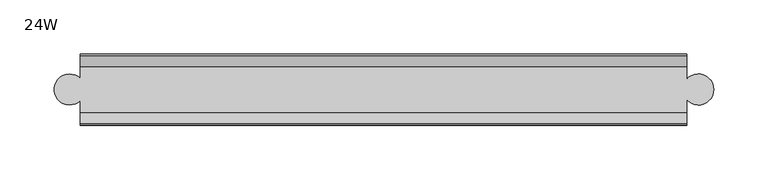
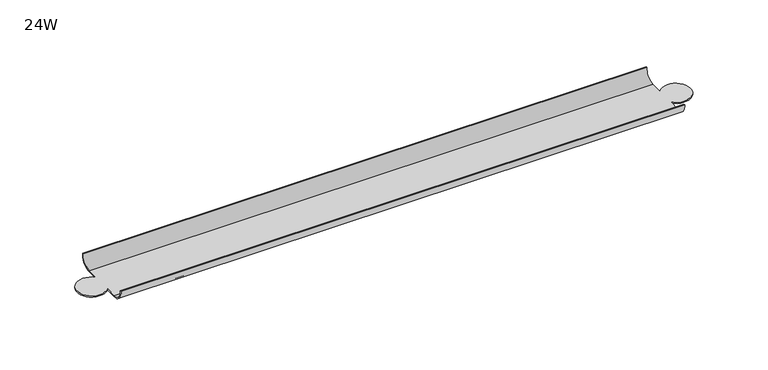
"""IFC4 building model written with IfcOpenShell, lengths in millimetres: furniture geometry, Steelcase - Groupwork - Marker Tray : 24W."""

from ifc_helpers import new_model, si_unit, frame, origin, place, context, project, spatial, polyline, circle_curve, source, transform, mapped, element, save
from ifc_brep_helpers import plane_surface, cylinder_surface, revolved_surface, advanced_brep


def furniture_24w_8317a860(model_context):
    return source(origin(), model_context, "Body", "AdvancedBrep", [
        advanced_brep(
        [(582.0429397, 212.2245693, 1687.0172), (23.241, 212.2245693, 1687.0172), (23.241, 202.0295313, 1698.4980698), (582.0429397, 202.0295313, 1698.4980698), (23.241, 200.7958824, 1698.4980698), (582.0429397, 200.7958824, 1698.4980698), (23.241, 212.2245693, 1685.798), (582.0429397, 212.2245693, 1685.798), (23.241, 223.9010128, 1685.798), (23.241, 244.1629734, 1685.798), (23.241, 255.3029693, 1685.798), (582.0429397, 255.3029693, 1685.798), (582.0429397, 243.3482016, 1685.798), (582.0429397, 224.7157845, 1685.798), (23.241, 266.7329688, 1698.4980698), (582.0429397, 266.7329688, 1698.4980698), (23.241, 265.5137686, 1698.4980698), (582.0429397, 265.5137686, 1698.4980698), (23.241, 255.3029693, 1687.0172), (582.0429397, 255.3029693, 1687.0172), (582.0429397, 224.7157845, 1687.0172), (582.0429397, 243.3482016, 1687.0172), (23.241, 244.1629734, 1687.0172), (23.241, 223.9010128, 1687.0172)],
        [
            (0, 1),
            (1, 2, circle_curve(frame((23.241, 212.2245693, 1697.2842432), z_axis=(-1.0, 0.0, 0.0), x_axis=(0.0, -1.0, 0.0)), 10.2670432)),
            (2, 3),
            (3, 0, circle_curve(frame((582.0429397, 212.2245693, 1697.2842432), z_axis=(1.0, 0.0, 0.0), x_axis=(0.0, -1.0, 0.0)), 10.2670432)),
            (2, 4),
            (4, 5),
            (5, 3),
            (4, 6, circle_curve(frame((23.241, 212.2245693, 1697.2903249), z_axis=(1.0, 0.0, 0.0), x_axis=(0.0, -1.0, 0.0)), 11.4923249)),
            (6, 7),
            (7, 5, circle_curve(frame((582.0429397, 212.2245693, 1697.2903249), z_axis=(-1.0, 0.0, 0.0), x_axis=(0.0, -1.0, 0.0)), 11.4923249)),
            (6, 8),
            (8, 9, circle_curve(frame((13.2330891, 234.0319931, 1685.798), z_axis=(0.0, 0.0, -1.0), x_axis=(1.0, 0.0, 0.0)), 14.2406124)),
            (9, 10),
            (10, 11),
            (11, 12),
            (12, 13, circle_curve(frame((592.8134226, 234.0319931, 1685.798), z_axis=(0.0, 0.0, -1.0), x_axis=(1.0, 0.0, 0.0)), 14.2406124)),
            (13, 7),
            (10, 14, circle_curve(frame((23.241, 255.3029693, 1697.2915061), z_axis=(1.0, 0.0, 0.0), x_axis=(0.0, -1.0, 0.0)), 11.4935061)),
            (14, 15),
            (15, 11, circle_curve(frame((582.0429397, 255.3029693, 1697.2915061), z_axis=(-1.0, 0.0, 0.0), x_axis=(0.0, -1.0, 0.0)), 11.4935061)),
            (14, 16),
            (16, 17),
            (17, 15),
            (16, 18, circle_curve(frame((23.241, 255.3029693, 1697.29825), z_axis=(-1.0, 0.0, 0.0), x_axis=(0.0, -1.0, 0.0)), 10.28105)),
            (18, 19),
            (19, 17, circle_curve(frame((582.0429397, 255.3029693, 1697.29825), z_axis=(1.0, 0.0, 0.0), x_axis=(0.0, -1.0, 0.0)), 10.28105)),
            (0, 20),
            (20, 21, circle_curve(frame((592.8134226, 234.0319931, 1687.0172), z_axis=(0.0, 0.0, 1.0), x_axis=(1.0, 0.0, 0.0)), 14.2406124)),
            (21, 19),
            (18, 22),
            (22, 23, circle_curve(frame((13.2330891, 234.0319931, 1687.0172), z_axis=(0.0, 0.0, 1.0), x_axis=(1.0, 0.0, 0.0)), 14.2406124)),
            (23, 1),
            (23, 8),
            (22, 9),
            (21, 12),
            (20, 13),
        ],
        [
            revolved_surface(polyline([(23.241, 201.95752610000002, 1697.2842432), (582.0429397, 201.95752610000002, 1697.2842432)]), (-2.159, 212.2245693, 1697.2842432), (-1.0, 0.0, 0.0)),
            plane_surface(frame((607.441, 202.0295313, 1698.4980698), z_axis=(0.0, 0.0, 1.0), x_axis=(-1.0, 0.0, 0.0))),
            cylinder_surface(frame((-2.159, 212.2245693, 1697.2903249), z_axis=(1.0, 0.0, 0.0), x_axis=(0.0, -1.0, 0.0)), 11.4923249),
            plane_surface(frame((607.441, 212.2245693, 1685.798), z_axis=(0.0, 0.0, -1.0), x_axis=(-1.0, 0.0, 0.0))),
            cylinder_surface(frame((-2.159, 255.3029693, 1697.2915061), z_axis=(1.0, 0.0, 0.0), x_axis=(0.0, -1.0, 0.0)), 11.4935061),
            plane_surface(frame((607.441, 266.7329688, 1698.4980698), z_axis=(0.0, 0.0, 1.0), x_axis=(-1.0, 0.0, 0.0))),
            revolved_surface(polyline([(23.241, 245.0219193, 1697.29825), (582.0429397, 245.0219193, 1697.29825)]), (-2.159, 255.3029693, 1697.29825), (-1.0, 0.0, 0.0)),
            plane_surface(frame((607.441, 255.3029693, 1687.0172), z_axis=(0.0, 0.0, 1.0), x_axis=(-1.0, 0.0, 0.0))),
            plane_surface(frame((23.241, 192.9089405, 1948.5186421), z_axis=(-1.0, 0.0, 0.0), x_axis=(0.0, 0.0, -1.0))),
            cylinder_surface(frame((13.2330891, 234.0319931, 0.0), z_axis=(0.0, 0.0, -1.0), x_axis=(1.0, 0.0, 0.0)), 14.2406124),
            plane_surface(frame((23.241, 244.1629734, 1948.5186421), z_axis=(-1.0, 0.0, 0.0), x_axis=(0.0, 0.0, -1.0))),
            plane_surface(frame((582.0429397, 277.7490046, 1948.5186421), z_axis=(1.0, 0.0, 0.0), x_axis=(0.0, 0.0, -1.0))),
            cylinder_surface(frame((592.8134226, 234.0319931, 0.0), z_axis=(0.0, 0.0, -1.0), x_axis=(1.0, 0.0, 0.0)), 14.2406124),
            plane_surface(frame((582.0429397, 224.7157845, 1948.5186421), z_axis=(1.0, 0.0, 0.0), x_axis=(0.0, 0.0, -1.0))),
        ],
        [
            (0, [[1, 2, 3, 4]]),
            (1, [[-3, 5, 6, 7]]),
            (2, [[-6, 8, 9, 10]]),
            (3, [[-9, 11, 12, 13, 14, 15, 16, 17]]),
            (4, [[-14, 18, 19, 20]]),
            (5, [[-19, 21, 22, 23]]),
            (6, [[-22, 24, 25, 26]]),
            (7, [[-1, 27, 28, 29, -25, 30, 31, 32]]),
            (8, [[33, -11, -8, -5, -2, -32]]),
            (9, [[-33, -31, 34, -12]]),
            (10, [[-34, -30, -24, -21, -18, -13]]),
            (11, [[35, -15, -20, -23, -26, -29]]),
            (12, [[-35, -28, 36, -16]]),
            (13, [[-36, -27, -4, -7, -10, -17]]),
        ],
    ),
    ])


if __name__ == "__main__":
    model = new_model("IFC4")
    model_context = context("Model", 3, world=origin())
    ifc_project = project(units=[si_unit("LENGTHUNIT", "METRE", prefix="MILLI")], contexts=[model_context])
    site = spatial("IfcSite", under=ifc_project)
    building = spatial("IfcBuilding", under=site)
    placement = place(None, origin())
    furniture_24w_shape = furniture_24w_8317a860(model_context)
    element("IfcFurniture", 1, ObjectType="Steelcase - Groupwork - Marker Tray : 24W", at=placement, inside=building, context=model_context, shape_type="MappedRepresentation", body=[
        mapped(furniture_24w_shape, transform((0.0, 0.0, 0.0), x_axis=(1.0, 0.0, 0.0), y_axis=(0.0, 1.0, 0.0), z_axis=(0.0, 0.0, 1.0))),
    ])
    save(model, "model.ifc")
